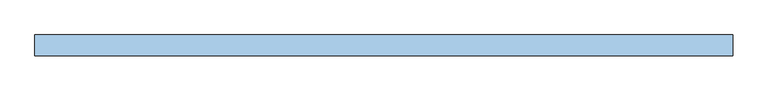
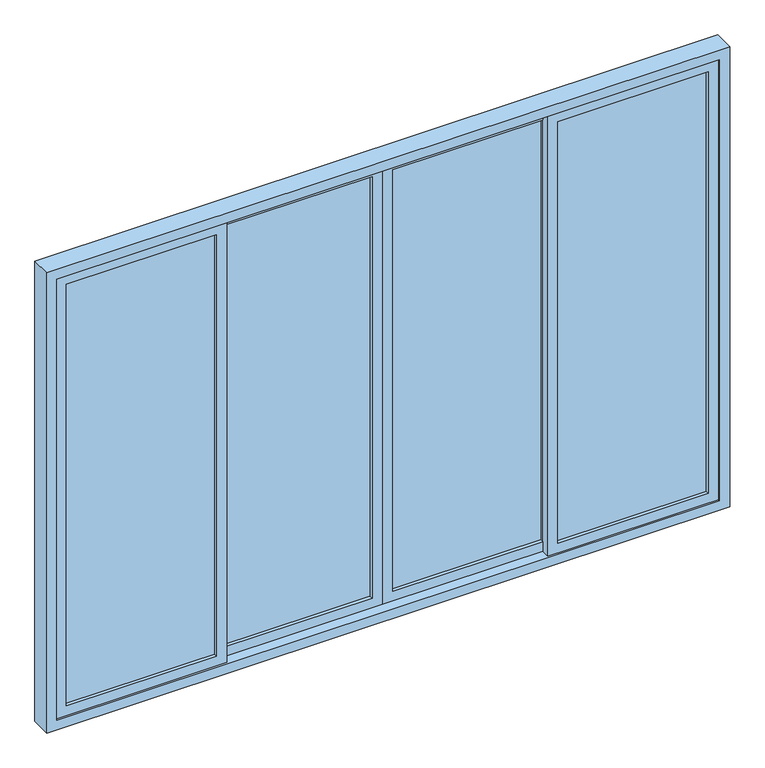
"""IFC4 building model written with IfcOpenShell, lengths in millimetres: window geometry, 四開落地窗- (1) : 1FL_東面_四開落地窗_400 x 285cm."""

from ifc_helpers import new_model, si_unit, frame, origin, place, context, project, spatial, polyline, outline, extrude, source, transform, mapped, element, save


def window_18301d79(model_context):
    return source(origin(), model_context, "Body", "SweptSolid", [
        extrude(outline(polyline([(2790.0, -1940.0), (60.0, -1940.0), (60.0, -940.0), (2790.0, -940.0), (2790.0, -1940.0)]), holes=[polyline([(2730.0, -1880.0), (2730.0, -1000.0), (120.0, -1000.0), (120.0, -1880.0), (2730.0, -1880.0)])]), frame((0.0, -230.0, 0.0), z_axis=(0.0, 1.0, 0.0), x_axis=(0.0, 0.0, 1.0)), (0.0, 0.0, 1.0), 50.0),
        extrude(outline(polyline([(-1000.0, -200.0), (-1000.0, -210.0), (-1880.0, -210.0), (-1880.0, -200.0), (-1000.0, -200.0)])), frame((0.0, 0.0, 120.0), z_axis=(0.0, 0.0, 1.0), x_axis=(1.0, 0.0, 0.0)), (0.0, 0.0, 1.0), 2610.0),
        extrude(outline(polyline([(2790.0, -1000.0), (60.0, -1000.0), (60.0, 0.0), (2790.0, 0.0), (2790.0, -1000.0)]), holes=[polyline([(2730.0, -940.0), (2730.0, -60.0), (120.0, -60.0), (120.0, -940.0), (2730.0, -940.0)])]), frame((0.0, -180.0, 0.0), z_axis=(0.0, 1.0, 0.0), x_axis=(0.0, 0.0, 1.0)), (0.0, 0.0, 1.0), 50.0),
        extrude(outline(polyline([(-60.0, -160.0), (-940.0, -160.0), (-940.0, -150.0), (-60.0, -150.0), (-60.0, -160.0)])), frame((0.0, 0.0, 120.0), z_axis=(0.0, 0.0, 1.0), x_axis=(1.0, 0.0, 0.0)), (0.0, 0.0, 1.0), 2610.0),
        extrude(outline(polyline([(2790.0, 1940.0), (2790.0, 940.0), (60.0, 940.0), (60.0, 1940.0), (2790.0, 1940.0)]), holes=[polyline([(2730.0, 1880.0), (120.0, 1880.0), (120.0, 1000.0), (2730.0, 1000.0), (2730.0, 1880.0)])]), frame((0.0, -230.0, 0.0), z_axis=(0.0, 1.0, 0.0), x_axis=(0.0, 0.0, 1.0)), (0.0, 0.0, 1.0), 50.0),
        extrude(outline(polyline([(1000.0, -200.0), (1880.0, -200.0), (1880.0, -210.0), (1000.0, -210.0), (1000.0, -200.0)])), frame((0.0, 0.0, 120.0), z_axis=(0.0, 0.0, 1.0), x_axis=(1.0, 0.0, 0.0)), (0.0, 0.0, 1.0), 2610.0),
        extrude(outline(polyline([(2790.0, 1000.0), (2790.0, 0.0), (60.0, 0.0), (60.0, 1000.0), (2790.0, 1000.0)]), holes=[polyline([(2730.0, 940.0), (120.0, 940.0), (120.0, 60.0), (2730.0, 60.0), (2730.0, 940.0)])]), frame((0.0, -180.0, 0.0), z_axis=(0.0, 1.0, 0.0), x_axis=(0.0, 0.0, 1.0)), (0.0, 0.0, 1.0), 50.0),
        extrude(outline(polyline([(60.0, -160.0), (60.0, -150.0), (940.0, -150.0), (940.0, -160.0), (60.0, -160.0)])), frame((0.0, 0.0, 120.0), z_axis=(0.0, 0.0, 1.0), x_axis=(1.0, 0.0, 0.0)), (0.0, 0.0, 1.0), 2610.0),
        extrude(outline(polyline([(2850.0, 2000.0), (2850.0, -2000.0), (0.0, -2000.0), (0.0, 2000.0), (2850.0, 2000.0)]), holes=[polyline([(2790.0, 1940.0), (60.0, 1940.0), (60.0, -1940.0), (2790.0, -1940.0), (2790.0, 1940.0)])]), frame((0.0, -240.0, 0.0), z_axis=(0.0, 1.0, 0.0), x_axis=(0.0, 0.0, 1.0)), (0.0, 0.0, 1.0), 120.0),
    ])


if __name__ == "__main__":
    model = new_model("IFC4")
    model_context = context("Model", 3, world=origin())
    ifc_project = project(units=[si_unit("LENGTHUNIT", "METRE", prefix="MILLI")], contexts=[model_context])
    site = spatial("IfcSite", under=ifc_project)
    building = spatial("IfcBuilding", under=site)
    placement = place(None, origin())
    window_shape = window_18301d79(model_context)
    element("IfcWindow", 1, ObjectType="四開落地窗- (1) : 1FL_東面_四開落地窗_400 x 285cm", at=placement, inside=building, context=model_context, shape_type="MappedRepresentation", body=[
        mapped(window_shape, transform((0.0, 0.0, 0.0), x_axis=(1.0, 0.0, 0.0), y_axis=(0.0, 1.0, 0.0), z_axis=(0.0, 0.0, 1.0))),
    ])
    save(model, "model.ifc")
